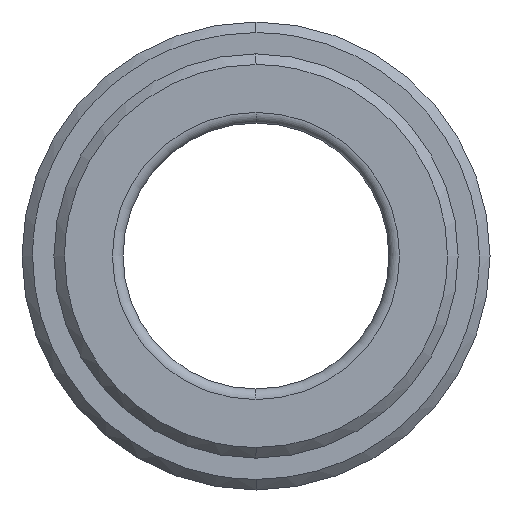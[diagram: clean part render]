
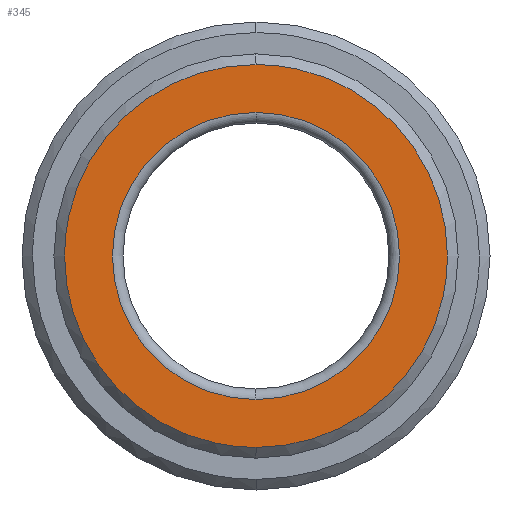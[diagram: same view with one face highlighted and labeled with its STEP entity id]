
A CAD part, front view. The second image highlights one B-rep face of the part: STEP entity #345.
In plain terms, the highlighted planar face has unit normal (0, -1, 0).
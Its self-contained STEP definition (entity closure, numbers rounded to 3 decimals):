
#117=CARTESIAN_POINT('Vertex',(0.,0.,13.5)) ;
#120=CARTESIAN_POINT('Axis2P3D Location',(0.,0.,0.)) ;
#124=CARTESIAN_POINT('Vertex',(-13.5,0.,0.)) ;
#127=CARTESIAN_POINT('Axis2P3D Location',(0.,0.,0.)) ;
#131=CARTESIAN_POINT('Vertex',(0.,0.,-13.5)) ;
#231=CARTESIAN_POINT('Axis2P3D Location',(0.,0.,0.)) ;
#235=CARTESIAN_POINT('Vertex',(13.5,0.,0.)) ;
#238=CARTESIAN_POINT('Axis2P3D Location',(0.,0.,0.)) ;
#252=CARTESIAN_POINT('Axis2P3D Location',(-13.5,0.,0.)) ;
#258=CARTESIAN_POINT('Control Point',(18.,0.,0.)) ;
#259=CARTESIAN_POINT('Control Point',(18.,0.,1.663)) ;
#260=CARTESIAN_POINT('Control Point',(17.808,0.,3.326)) ;
#261=CARTESIAN_POINT('Control Point',(17.424,0.,4.959)) ;
#262=CARTESIAN_POINT('Control Point',(16.286,0.,8.107)) ;
#263=CARTESIAN_POINT('Control Point',(14.46,0.,10.913)) ;
#264=CARTESIAN_POINT('Control Point',(13.388,0.,12.204)) ;
#265=CARTESIAN_POINT('Control Point',(10.967,0.,14.515)) ;
#266=CARTESIAN_POINT('Control Point',(8.082,0.,16.213)) ;
#267=CARTESIAN_POINT('Control Point',(6.547,0.,16.891)) ;
#268=CARTESIAN_POINT('Control Point',(4.307,0.,17.585)) ;
#269=CARTESIAN_POINT('Control Point',(1.998,0.,17.907)) ;
#270=CARTESIAN_POINT('Control Point',(1.333,0.,17.969)) ;
#271=CARTESIAN_POINT('Control Point',(0.667,0.,18.)) ;
#272=CARTESIAN_POINT('Control Point',(0.,0.,18.)) ;
#273=CARTESIAN_POINT('Vertex',(18.,0.,0.)) ;
#275=CARTESIAN_POINT('Vertex',(0.,0.,18.)) ;
#279=CARTESIAN_POINT('Control Point',(0.,0.,18.)) ;
#280=CARTESIAN_POINT('Control Point',(-0.996,0.,18.)) ;
#281=CARTESIAN_POINT('Control Point',(-1.992,0.,17.931)) ;
#282=CARTESIAN_POINT('Control Point',(-2.982,0.,17.793)) ;
#283=CARTESIAN_POINT('Control Point',(-5.59,0.,17.244)) ;
#284=CARTESIAN_POINT('Control Point',(-8.064,0.,16.222)) ;
#285=CARTESIAN_POINT('Control Point',(-9.53,0.,15.406)) ;
#286=CARTESIAN_POINT('Control Point',(-12.248,0.,13.451)) ;
#287=CARTESIAN_POINT('Control Point',(-14.448,0.,10.928)) ;
#288=CARTESIAN_POINT('Control Point',(-15.397,0.,9.545)) ;
#289=CARTESIAN_POINT('Control Point',(-16.804,0.,6.877)) ;
#290=CARTESIAN_POINT('Control Point',(-17.63,0.,3.984)) ;
#291=CARTESIAN_POINT('Control Point',(-17.877,0.,2.666)) ;
#292=CARTESIAN_POINT('Control Point',(-18.,0.,1.333)) ;
#293=CARTESIAN_POINT('Control Point',(-18.,0.,0.)) ;
#294=CARTESIAN_POINT('Vertex',(-18.,0.,0.)) ;
#298=CARTESIAN_POINT('Control Point',(-18.,0.,0.)) ;
#299=CARTESIAN_POINT('Control Point',(-18.,0.,-1.663)) ;
#300=CARTESIAN_POINT('Control Point',(-17.808,0.,-3.326)) ;
#301=CARTESIAN_POINT('Control Point',(-17.424,0.,-4.959)) ;
#302=CARTESIAN_POINT('Control Point',(-16.286,0.,-8.107)) ;
#303=CARTESIAN_POINT('Control Point',(-14.46,0.,-10.913)) ;
#304=CARTESIAN_POINT('Control Point',(-13.388,0.,-12.204)) ;
#305=CARTESIAN_POINT('Control Point',(-10.967,0.,-14.515)) ;
#306=CARTESIAN_POINT('Control Point',(-8.082,0.,-16.213)) ;
#307=CARTESIAN_POINT('Control Point',(-6.547,0.,-16.891)) ;
#308=CARTESIAN_POINT('Control Point',(-4.307,0.,-17.585)) ;
#309=CARTESIAN_POINT('Control Point',(-1.998,0.,-17.907)) ;
#310=CARTESIAN_POINT('Control Point',(-1.333,0.,-17.969)) ;
#311=CARTESIAN_POINT('Control Point',(-0.667,0.,-18.)) ;
#312=CARTESIAN_POINT('Control Point',(0.,0.,-18.)) ;
#313=CARTESIAN_POINT('Vertex',(0.,0.,-18.)) ;
#317=CARTESIAN_POINT('Control Point',(0.,0.,-18.)) ;
#318=CARTESIAN_POINT('Control Point',(0.996,0.,-18.)) ;
#319=CARTESIAN_POINT('Control Point',(1.992,0.,-17.931)) ;
#320=CARTESIAN_POINT('Control Point',(2.982,0.,-17.793)) ;
#321=CARTESIAN_POINT('Control Point',(5.59,0.,-17.244)) ;
#322=CARTESIAN_POINT('Control Point',(8.064,0.,-16.222)) ;
#323=CARTESIAN_POINT('Control Point',(9.53,0.,-15.406)) ;
#324=CARTESIAN_POINT('Control Point',(12.248,0.,-13.451)) ;
#325=CARTESIAN_POINT('Control Point',(14.448,0.,-10.928)) ;
#326=CARTESIAN_POINT('Control Point',(15.397,0.,-9.545)) ;
#327=CARTESIAN_POINT('Control Point',(16.804,0.,-6.877)) ;
#328=CARTESIAN_POINT('Control Point',(17.63,0.,-3.984)) ;
#329=CARTESIAN_POINT('Control Point',(17.877,0.,-2.666)) ;
#330=CARTESIAN_POINT('Control Point',(18.,0.,-1.333)) ;
#331=CARTESIAN_POINT('Control Point',(18.,0.,0.)) ;
#121=DIRECTION('Axis2P3D Direction',(0.,-1.,0.)) ;
#128=DIRECTION('Axis2P3D Direction',(0.,-1.,0.)) ;
#232=DIRECTION('Axis2P3D Direction',(0.,-1.,0.)) ;
#239=DIRECTION('Axis2P3D Direction',(0.,-1.,0.)) ;
#253=DIRECTION('Axis2P3D Direction',(0.,1.,0.)) ;
#254=DIRECTION('Axis2P3D XDirection',(1.,0.,-0.)) ;
#122=AXIS2_PLACEMENT_3D('Circle Axis2P3D',#120,#121,$) ;
#129=AXIS2_PLACEMENT_3D('Circle Axis2P3D',#127,#128,$) ;
#233=AXIS2_PLACEMENT_3D('Circle Axis2P3D',#231,#232,$) ;
#240=AXIS2_PLACEMENT_3D('Circle Axis2P3D',#238,#239,$) ;
#255=AXIS2_PLACEMENT_3D('Plane Axis2P3D',#252,#253,#254) ;
#334=ORIENTED_EDGE('',*,*,#277,.T.) ;
#335=ORIENTED_EDGE('',*,*,#296,.T.) ;
#336=ORIENTED_EDGE('',*,*,#315,.T.) ;
#337=ORIENTED_EDGE('',*,*,#332,.T.) ;
#340=ORIENTED_EDGE('',*,*,#237,.F.) ;
#341=ORIENTED_EDGE('',*,*,#133,.F.) ;
#342=ORIENTED_EDGE('',*,*,#126,.F.) ;
#343=ORIENTED_EDGE('',*,*,#242,.F.) ;
#344=FACE_BOUND('',#339,.T.) ;
#345=ADVANCED_FACE('CF 450 25x80',(#338,#344),#256,.F.) ;
#257=B_SPLINE_CURVE_WITH_KNOTS('',5,(#258,#259,#260,#261,#262,#263,#264,#265,#266,#267,#268,#269,#270,#271,#272),.UNSPECIFIED.,.F.,.U.,(6,3,3,3,6),(0.,11.757,23.515,35.272,39.986),.UNSPECIFIED.) ;
#278=B_SPLINE_CURVE_WITH_KNOTS('',5,(#279,#280,#281,#282,#283,#284,#285,#286,#287,#288,#289,#290,#291,#292,#293),.UNSPECIFIED.,.F.,.U.,(6,3,3,3,6),(39.986,47.03,58.787,70.545,79.971),.UNSPECIFIED.) ;
#297=B_SPLINE_CURVE_WITH_KNOTS('',5,(#298,#299,#300,#301,#302,#303,#304,#305,#306,#307,#308,#309,#310,#311,#312),.UNSPECIFIED.,.F.,.U.,(6,3,3,3,6),(0.,11.757,23.515,35.272,39.986),.UNSPECIFIED.) ;
#316=B_SPLINE_CURVE_WITH_KNOTS('',5,(#317,#318,#319,#320,#321,#322,#323,#324,#325,#326,#327,#328,#329,#330,#331),.UNSPECIFIED.,.F.,.U.,(6,3,3,3,6),(39.986,47.03,58.787,70.545,79.971),.UNSPECIFIED.) ;
#123=CIRCLE('generated circle',#122,13.5) ;
#130=CIRCLE('generated circle',#129,13.5) ;
#234=CIRCLE('generated circle',#233,13.5) ;
#241=CIRCLE('generated circle',#240,13.5) ;
#126=EDGE_CURVE('',#118,#125,#123,.T.) ;
#133=EDGE_CURVE('',#125,#132,#130,.T.) ;
#237=EDGE_CURVE('',#132,#236,#234,.T.) ;
#242=EDGE_CURVE('',#236,#118,#241,.T.) ;
#277=EDGE_CURVE('',#274,#276,#257,.T.) ;
#296=EDGE_CURVE('',#276,#295,#278,.T.) ;
#315=EDGE_CURVE('',#295,#314,#297,.T.) ;
#332=EDGE_CURVE('',#314,#274,#316,.T.) ;
#333=EDGE_LOOP('',(#334,#335,#336,#337)) ;
#339=EDGE_LOOP('',(#340,#341,#342,#343)) ;
#338=FACE_OUTER_BOUND('',#333,.T.) ;
#256=PLANE('Plane',#255) ;
#118=VERTEX_POINT('',#117) ;
#125=VERTEX_POINT('',#124) ;
#132=VERTEX_POINT('',#131) ;
#236=VERTEX_POINT('',#235) ;
#274=VERTEX_POINT('',#273) ;
#276=VERTEX_POINT('',#275) ;
#295=VERTEX_POINT('',#294) ;
#314=VERTEX_POINT('',#313) ;
